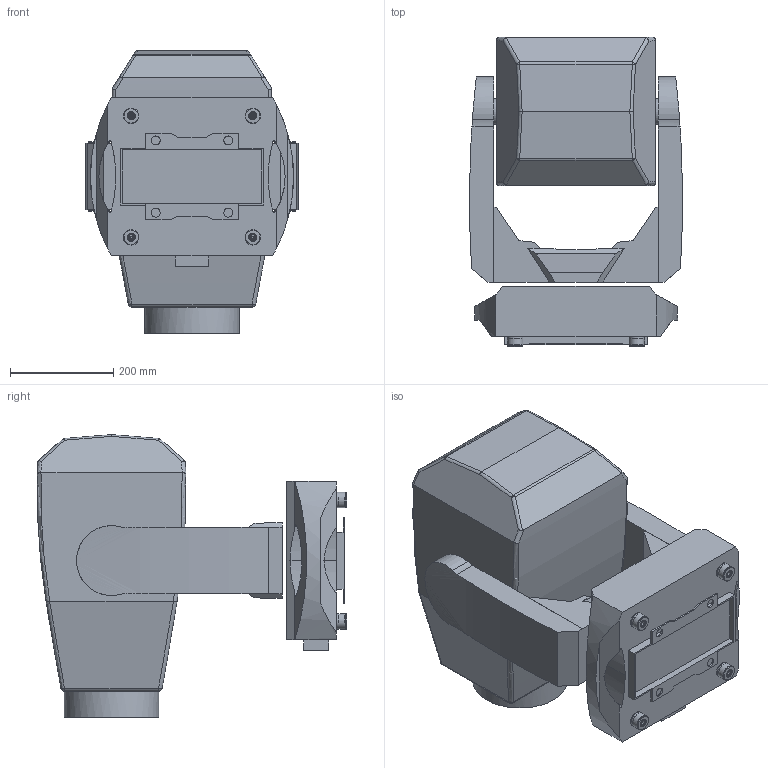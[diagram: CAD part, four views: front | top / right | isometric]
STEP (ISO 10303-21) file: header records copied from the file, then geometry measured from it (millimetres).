
FILE_DESCRIPTION(/* description */ (''),/* implementation_level */ '2;1');
FILE_NAME(/* name */ 'D:/dgooch/Documents/CADENG/PRO/MK3 Spot/90/Maverick MK3 Spot_90.step',/* time_stamp */ '2019-03-18T12:07:56-04:00',/* author */ (''),/* organization */ (''),/* preprocessor_version */ 'ST-DEVELOPER v17.2',/* originating_system */ 'Autodesk Translation Framework v7.6.0.251',/* authorisation */ '');
FILE_SCHEMA (('AUTOMOTIVE_DESIGN { 1 0 10303 214 3 1 1 }'));
Length unit declared in the file: millimetre
Products named in the file (8): Maverick MK3 Spot; Maverick MK2 Profile; Base; CD-JD30-21_ASM_1_ASM (1); JJ-D30-01_1 (1); JJ-D30-02_1 (1); Arms; Head_MK
Assembly tree (10 placements, depth 5):
  Maverick MK3 Spot
    Maverick MK2 Profile
      Base
        CD-JD30-21_ASM_1_ASM (1)  x4
          JJ-D30-01_1 (1)
          JJ-D30-02_1 (1)
      Arms
      Head_MK
Bounding box: 411.79 x 598.73 x 546.93 mm (x, y, z)
Volume: 54861106.8 mm3; surface area: 1664500.8 mm2
Topology: 12 solids, 12 shells, 413 faces, 1222 edges, 871 vertices
Faces by surface type: plane 176, cylinder 141, cone 60, bspline 16, torus 12, sphere 8
Full cylindrical faces by diameter (mm): 4.1 x4, 5 x40, 10 x8, 15 x16, 17 x4, 27 x16, 30 x12, 50 x2, 165.644 x1, 183.319 x1
Entity records: 9105 total; most frequent: CARTESIAN_POINT 2148, DIRECTION 1456, ORIENTED_EDGE 1418, EDGE_CURVE 709, AXIS2_PLACEMENT_3D 535, VERTEX_POINT 484, LINE 386, VECTOR 386
